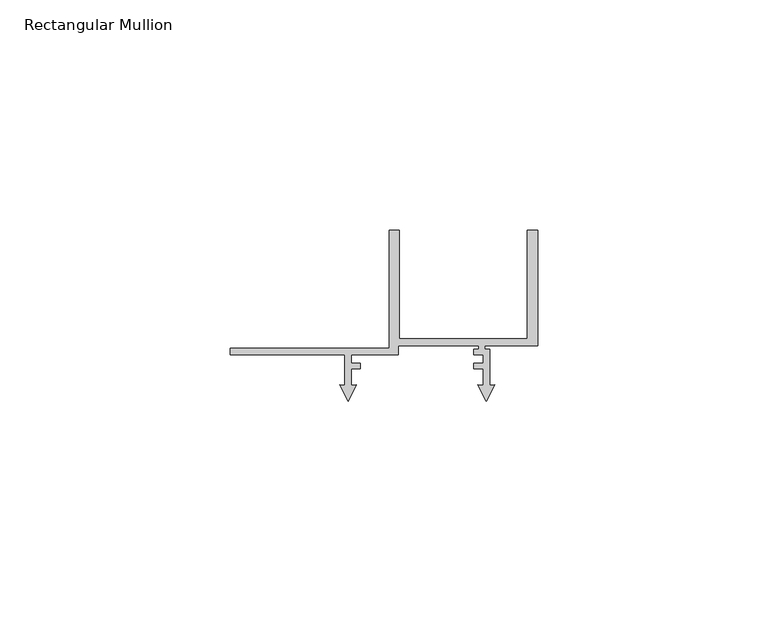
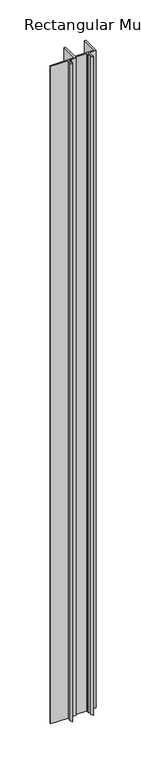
"""IFC4 building model written with IfcOpenShell, lengths in millimetres: member geometry, Rectangular Mullion : Renson_Linarte_LA-E25-01."""

from ifc_helpers import new_model, si_unit, frame, origin, place, context, project, spatial, polyline, outline, extrude, source, transform, mapped, element, save


def rectangular_mullion_e1f336e5(model_context):
    return source(origin(), model_context, "Body", "SweptSolid", [
        extrude(outline(polyline([(-66.6, 36.1000494), (-32.2, 36.1000494), (-32.2, 61.6000494), (-30.0, 61.6000494), (-30.0, 38.1000494), (-2.2, 38.1000494), (-2.2, 61.6000494), (0.0, 61.6000494), (0.0, 36.6000494), (-11.4, 36.6000494), (-11.4, 35.8015754), (-10.3999985, 35.8015754), (-10.3999985, 28.0038712), (-9.284262, 28.1014855), (-11.0999986, 24.537898), (-12.9157351, 28.1014855), (-11.7999987, 28.0038712), (-11.7999987, 31.5979618), (-13.7875618, 31.5979618), (-13.7875618, 32.8000494), (-11.8091794, 32.8000494), (-11.8091794, 34.6000494), (-13.7880766, 34.6000494), (-13.7880766, 35.8015754), (-12.8, 35.8015754), (-12.8, 36.6000494), (-30.1732051, 36.6000494), (-30.1732051, 34.6000494), (-40.3999995, 34.6000494), (-40.3999995, 32.8000494), (-38.4077357, 32.8000494), (-38.4077357, 31.599221), (-40.3999998, 31.599221), (-40.3999998, 28.0071867), (-39.2744672, 28.1056581), (-41.0999986, 24.5228474), (-42.9255299, 28.1056578), (-41.8, 28.0071867), (-41.8, 34.6000494), (-66.6, 34.6000494), (-66.6, 36.1000494)])), frame((0.0, 0.0, -1000.0), z_axis=(0.0, 0.0, 1.0), x_axis=(1.0, 0.0, 0.0)), (0.0, 0.0, 1.0), 1000.0),
    ])


if __name__ == "__main__":
    model = new_model("IFC4")
    model_context = context("Model", 3, world=origin())
    ifc_project = project(units=[si_unit("LENGTHUNIT", "METRE", prefix="MILLI")], contexts=[model_context])
    site = spatial("IfcSite", under=ifc_project)
    building = spatial("IfcBuilding", under=site)
    placement = place(None, origin())
    rectangular_mullion_shape = rectangular_mullion_e1f336e5(model_context)
    element("IfcMember", 1, ObjectType="Rectangular Mullion : Renson_Linarte_LA-E25-01", at=placement, inside=building, context=model_context, shape_type="MappedRepresentation", body=[
        mapped(rectangular_mullion_shape, transform((0.0, 0.0, 0.0), x_axis=(1.0, 0.0, 0.0), y_axis=(0.0, 1.0, 0.0), z_axis=(0.0, 0.0, 1.0))),
    ])
    save(model, "model.ifc")
